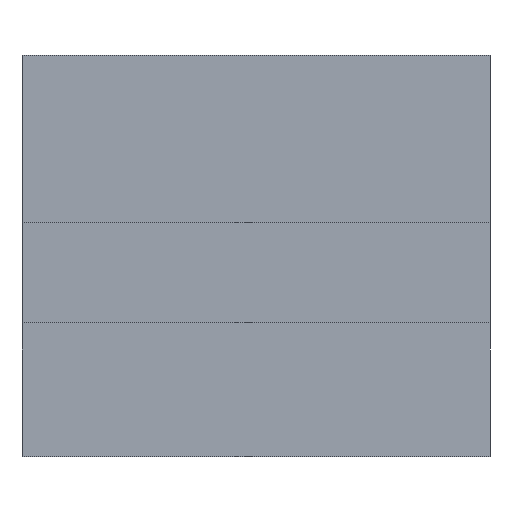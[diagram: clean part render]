
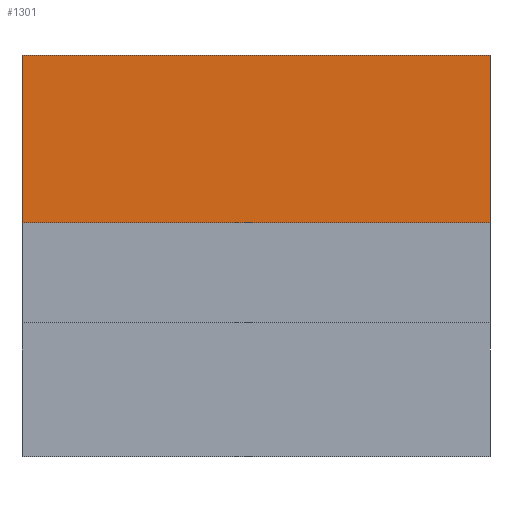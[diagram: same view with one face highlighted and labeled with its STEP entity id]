
A CAD part, front view. The second image highlights one B-rep face of the part: STEP entity #1301.
In plain terms, the highlighted planar face has unit normal (0, -1, 0).
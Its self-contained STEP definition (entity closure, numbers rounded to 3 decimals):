
#50 = PLANE('',#51);
#51 = AXIS2_PLACEMENT_3D('',#52,#53,#54);
#52 = CARTESIAN_POINT('',(-7.,16.8,14.));
#53 = DIRECTION('',(1.,0.,0.));
#54 = DIRECTION('',(0.,0.,1.));
#286 = PLANE('',#287);
#287 = AXIS2_PLACEMENT_3D('',#288,#289,#290);
#288 = CARTESIAN_POINT('',(-7.,-28.8,26.));
#289 = DIRECTION('',(0.,0.,1.));
#290 = DIRECTION('',(1.,0.,0.));
#377 = VERTEX_POINT('',#378);
#378 = CARTESIAN_POINT('',(-7.,-28.8,26.));
#399 = EDGE_CURVE('',#400,#377,#402,.T.);
#400 = VERTEX_POINT('',#401);
#401 = CARTESIAN_POINT('',(-7.,-28.8,21.));
#402 = SURFACE_CURVE('',#403,(#407,#414),.PCURVE_S1.);
#403 = LINE('',#404,#405);
#404 = CARTESIAN_POINT('',(-7.,-28.8,21.));
#405 = VECTOR('',#406,1.);
#406 = DIRECTION('',(0.,0.,1.));
#407 = PCURVE('',#50,#408);
#408 = DEFINITIONAL_REPRESENTATION('',(#409),#413);
#409 = LINE('',#410,#411);
#410 = CARTESIAN_POINT('',(7.,45.6));
#411 = VECTOR('',#412,1.);
#412 = DIRECTION('',(1.,0.));
#413 = ( GEOMETRIC_REPRESENTATION_CONTEXT(2) 
PARAMETRIC_REPRESENTATION_CONTEXT() REPRESENTATION_CONTEXT('2D SPACE',''
  ) );
#414 = PCURVE('',#415,#420);
#415 = PLANE('',#416);
#416 = AXIS2_PLACEMENT_3D('',#417,#418,#419);
#417 = CARTESIAN_POINT('',(-7.,-28.8,21.));
#418 = DIRECTION('',(0.,1.,0.));
#419 = DIRECTION('',(0.,0.,1.));
#420 = DEFINITIONAL_REPRESENTATION('',(#421),#425);
#421 = LINE('',#422,#423);
#422 = CARTESIAN_POINT('',(0.,0.));
#423 = VECTOR('',#424,1.);
#424 = DIRECTION('',(1.,0.));
#425 = ( GEOMETRIC_REPRESENTATION_CONTEXT(2) 
PARAMETRIC_REPRESENTATION_CONTEXT() REPRESENTATION_CONTEXT('2D SPACE',''
  ) );
#443 = PLANE('',#444);
#444 = AXIS2_PLACEMENT_3D('',#445,#446,#447);
#445 = CARTESIAN_POINT('',(-7.,-28.8,21.));
#446 = DIRECTION('',(0.,0.,1.));
#447 = DIRECTION('',(1.,0.,0.));
#748 = PLANE('',#749);
#749 = AXIS2_PLACEMENT_3D('',#750,#751,#752);
#750 = CARTESIAN_POINT('',(7.,16.8,14.));
#751 = DIRECTION('',(1.,0.,0.));
#752 = DIRECTION('',(0.,0.,1.));
#1257 = EDGE_CURVE('',#400,#1258,#1260,.T.);
#1258 = VERTEX_POINT('',#1259);
#1259 = CARTESIAN_POINT('',(7.,-28.8,21.));
#1260 = SURFACE_CURVE('',#1261,(#1265,#1272),.PCURVE_S1.);
#1261 = LINE('',#1262,#1263);
#1262 = CARTESIAN_POINT('',(-7.,-28.8,21.));
#1263 = VECTOR('',#1264,1.);
#1264 = DIRECTION('',(1.,0.,0.));
#1265 = PCURVE('',#443,#1266);
#1266 = DEFINITIONAL_REPRESENTATION('',(#1267),#1271);
#1267 = LINE('',#1268,#1269);
#1268 = CARTESIAN_POINT('',(0.,0.));
#1269 = VECTOR('',#1270,1.);
#1270 = DIRECTION('',(1.,0.));
#1271 = ( GEOMETRIC_REPRESENTATION_CONTEXT(2) 
PARAMETRIC_REPRESENTATION_CONTEXT() REPRESENTATION_CONTEXT('2D SPACE',''
  ) );
#1272 = PCURVE('',#415,#1273);
#1273 = DEFINITIONAL_REPRESENTATION('',(#1274),#1278);
#1274 = LINE('',#1275,#1276);
#1275 = CARTESIAN_POINT('',(0.,0.));
#1276 = VECTOR('',#1277,1.);
#1277 = DIRECTION('',(0.,1.));
#1278 = ( GEOMETRIC_REPRESENTATION_CONTEXT(2) 
PARAMETRIC_REPRESENTATION_CONTEXT() REPRESENTATION_CONTEXT('2D SPACE',''
  ) );
#1301 = ADVANCED_FACE('',(#1302),#415,.F.);
#1302 = FACE_BOUND('',#1303,.F.);
#1303 = EDGE_LOOP('',(#1304,#1305,#1306,#1329));
#1304 = ORIENTED_EDGE('',*,*,#1257,.F.);
#1305 = ORIENTED_EDGE('',*,*,#399,.T.);
#1306 = ORIENTED_EDGE('',*,*,#1307,.T.);
#1307 = EDGE_CURVE('',#377,#1308,#1310,.T.);
#1308 = VERTEX_POINT('',#1309);
#1309 = CARTESIAN_POINT('',(7.,-28.8,26.));
#1310 = SURFACE_CURVE('',#1311,(#1315,#1322),.PCURVE_S1.);
#1311 = LINE('',#1312,#1313);
#1312 = CARTESIAN_POINT('',(-7.,-28.8,26.));
#1313 = VECTOR('',#1314,1.);
#1314 = DIRECTION('',(1.,0.,0.));
#1315 = PCURVE('',#415,#1316);
#1316 = DEFINITIONAL_REPRESENTATION('',(#1317),#1321);
#1317 = LINE('',#1318,#1319);
#1318 = CARTESIAN_POINT('',(5.,0.));
#1319 = VECTOR('',#1320,1.);
#1320 = DIRECTION('',(0.,1.));
#1321 = ( GEOMETRIC_REPRESENTATION_CONTEXT(2) 
PARAMETRIC_REPRESENTATION_CONTEXT() REPRESENTATION_CONTEXT('2D SPACE',''
  ) );
#1322 = PCURVE('',#286,#1323);
#1323 = DEFINITIONAL_REPRESENTATION('',(#1324),#1328);
#1324 = LINE('',#1325,#1326);
#1325 = CARTESIAN_POINT('',(0.,0.));
#1326 = VECTOR('',#1327,1.);
#1327 = DIRECTION('',(1.,0.));
#1328 = ( GEOMETRIC_REPRESENTATION_CONTEXT(2) 
PARAMETRIC_REPRESENTATION_CONTEXT() REPRESENTATION_CONTEXT('2D SPACE',''
  ) );
#1329 = ORIENTED_EDGE('',*,*,#1330,.F.);
#1330 = EDGE_CURVE('',#1258,#1308,#1331,.T.);
#1331 = SURFACE_CURVE('',#1332,(#1336,#1343),.PCURVE_S1.);
#1332 = LINE('',#1333,#1334);
#1333 = CARTESIAN_POINT('',(7.,-28.8,21.));
#1334 = VECTOR('',#1335,1.);
#1335 = DIRECTION('',(0.,0.,1.));
#1336 = PCURVE('',#415,#1337);
#1337 = DEFINITIONAL_REPRESENTATION('',(#1338),#1342);
#1338 = LINE('',#1339,#1340);
#1339 = CARTESIAN_POINT('',(0.,14.));
#1340 = VECTOR('',#1341,1.);
#1341 = DIRECTION('',(1.,0.));
#1342 = ( GEOMETRIC_REPRESENTATION_CONTEXT(2) 
PARAMETRIC_REPRESENTATION_CONTEXT() REPRESENTATION_CONTEXT('2D SPACE',''
  ) );
#1343 = PCURVE('',#748,#1344);
#1344 = DEFINITIONAL_REPRESENTATION('',(#1345),#1349);
#1345 = LINE('',#1346,#1347);
#1346 = CARTESIAN_POINT('',(7.,45.6));
#1347 = VECTOR('',#1348,1.);
#1348 = DIRECTION('',(1.,0.));
#1349 = ( GEOMETRIC_REPRESENTATION_CONTEXT(2) 
PARAMETRIC_REPRESENTATION_CONTEXT() REPRESENTATION_CONTEXT('2D SPACE',''
  ) );
